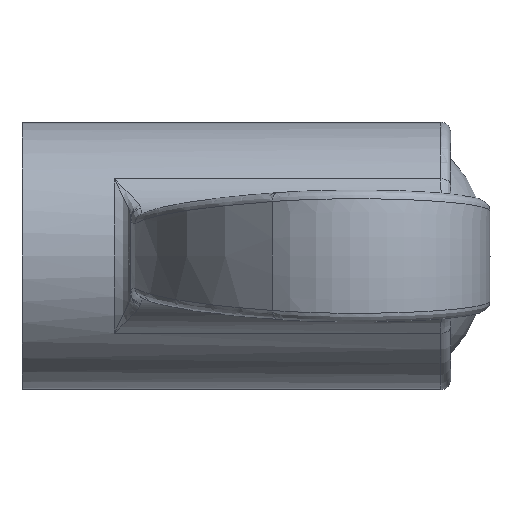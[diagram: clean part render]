
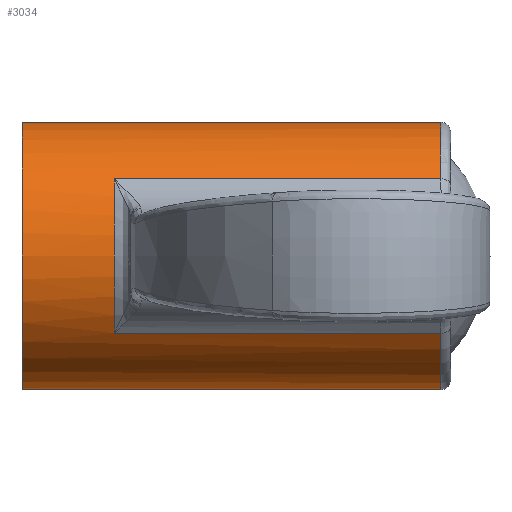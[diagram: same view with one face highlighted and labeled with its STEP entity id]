
A CAD part, front view. The second image highlights one B-rep face of the part: STEP entity #3034.
In plain terms, the highlighted cylindrical face has radius 8 mm (diameter 16 mm), a partial arc.
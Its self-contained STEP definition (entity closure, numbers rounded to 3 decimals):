
#85 = CARTESIAN_POINT ( 'NONE',  ( 25.049, -6.534, 4.615 ) ) ;
#163 = DIRECTION ( 'NONE',  ( 0., 0., -1. ) ) ;
#175 = ORIENTED_EDGE ( 'NONE', *, *, #1844, .T. ) ;
#215 = ORIENTED_EDGE ( 'NONE', *, *, #2663, .T. ) ;
#222 = ORIENTED_EDGE ( 'NONE', *, *, #1300, .F. ) ;
#272 = DIRECTION ( 'NONE',  ( -1., 0., 0. ) ) ;
#353 = DIRECTION ( 'NONE',  ( -1., 0., 0. ) ) ;
#403 = AXIS2_PLACEMENT_3D ( 'NONE', #969, #2035, #646 ) ;
#420 = AXIS2_PLACEMENT_3D ( 'NONE', #1093, #272, #1660 ) ;
#646 = DIRECTION ( 'NONE',  ( 0., 0., 1. ) ) ;
#760 = VERTEX_POINT ( 'NONE', #2981 ) ;
#820 = DIRECTION ( 'NONE',  ( -1., 0., 0. ) ) ;
#824 = VECTOR ( 'NONE', #820, 1000. ) ;
#968 = VERTEX_POINT ( 'NONE', #2036 ) ;
#969 = CARTESIAN_POINT ( 'NONE',  ( 0., 0., 0. ) ) ;
#1044 = CARTESIAN_POINT ( 'NONE',  ( 5.521, 0., 0. ) ) ;
#1047 = ORIENTED_EDGE ( 'NONE', *, *, #2371, .T. ) ;
#1054 = LINE ( 'NONE', #1329, #824 ) ;
#1059 = CARTESIAN_POINT ( 'NONE',  ( 28., -6.534, -4.615 ) ) ;
#1076 = CARTESIAN_POINT ( 'NONE',  ( 5.521, -6.534, -4.615 ) ) ;
#1093 = CARTESIAN_POINT ( 'NONE',  ( 25.049, 0., 0. ) ) ;
#1138 = EDGE_CURVE ( 'NONE', #3061, #2309, #2875, .T. ) ;
#1276 = DIRECTION ( 'NONE',  ( -1., 0., 0. ) ) ;
#1300 = EDGE_CURVE ( 'NONE', #2309, #3240, #2206, .T. ) ;
#1329 = CARTESIAN_POINT ( 'NONE',  ( 28., -6.534, 4.615 ) ) ;
#1459 = VECTOR ( 'NONE', #353, 1000. ) ;
#1460 = VECTOR ( 'NONE', #2314, 1000. ) ;
#1475 = CARTESIAN_POINT ( 'NONE',  ( 0., 0., -8. ) ) ;
#1490 = DIRECTION ( 'NONE',  ( -1., 0., 0. ) ) ;
#1516 = CARTESIAN_POINT ( 'NONE',  ( 0., 0., -8. ) ) ;
#1639 = VERTEX_POINT ( 'NONE', #1942 ) ;
#1660 = DIRECTION ( 'NONE',  ( 0., 0., -1. ) ) ;
#1844 = EDGE_CURVE ( 'NONE', #2594, #760, #2081, .T. ) ;
#1850 = DIRECTION ( 'NONE',  ( -1., 0., 0. ) ) ;
#1907 = AXIS2_PLACEMENT_3D ( 'NONE', #3172, #1276, #163 ) ;
#1942 = CARTESIAN_POINT ( 'NONE',  ( 25.049, -6.534, -4.615 ) ) ;
#1963 = VECTOR ( 'NONE', #3033, 1000. ) ;
#1996 = FACE_OUTER_BOUND ( 'NONE', #2183, .T. ) ;
#2001 = CARTESIAN_POINT ( 'NONE',  ( 0., 0., 8. ) ) ;
#2035 = DIRECTION ( 'NONE',  ( -1., 0., 0. ) ) ;
#2036 = CARTESIAN_POINT ( 'NONE',  ( 25.049, 0., 8. ) ) ;
#2075 = DIRECTION ( 'NONE',  ( 0., 0., 1. ) ) ;
#2081 = CIRCLE ( 'NONE', #2718, 8. ) ;
#2156 = LINE ( 'NONE', #1059, #1963 ) ;
#2159 = CARTESIAN_POINT ( 'NONE',  ( 0., 0., 8. ) ) ;
#2183 = EDGE_LOOP ( 'NONE', ( #2255, #1047, #2727, #175, #2808, #2900, #215, #222 ) ) ;
#2206 = CIRCLE ( 'NONE', #2319, 8. ) ;
#2241 = EDGE_CURVE ( 'NONE', #1639, #2594, #2156, .T. ) ;
#2255 = ORIENTED_EDGE ( 'NONE', *, *, #1138, .F. ) ;
#2309 = VERTEX_POINT ( 'NONE', #1475 ) ;
#2314 = DIRECTION ( 'NONE',  ( -1., 0., 0. ) ) ;
#2319 = AXIS2_PLACEMENT_3D ( 'NONE', #2349, #1490, #2075 ) ;
#2330 = CYLINDRICAL_SURFACE ( 'NONE', #403, 8. ) ;
#2349 = CARTESIAN_POINT ( 'NONE',  ( 0., 0., 0. ) ) ;
#2371 = EDGE_CURVE ( 'NONE', #3061, #1639, #3489, .T. ) ;
#2394 = CARTESIAN_POINT ( 'NONE',  ( 25.049, 0., -8. ) ) ;
#2509 = EDGE_CURVE ( 'NONE', #2964, #760, #1054, .T. ) ;
#2546 = CIRCLE ( 'NONE', #420, 8. ) ;
#2571 = EDGE_CURVE ( 'NONE', #2964, #968, #2546, .T. ) ;
#2594 = VERTEX_POINT ( 'NONE', #1076 ) ;
#2663 = EDGE_CURVE ( 'NONE', #968, #3240, #3411, .T. ) ;
#2718 = AXIS2_PLACEMENT_3D ( 'NONE', #1044, #1850, #3551 ) ;
#2727 = ORIENTED_EDGE ( 'NONE', *, *, #2241, .T. ) ;
#2808 = ORIENTED_EDGE ( 'NONE', *, *, #2509, .F. ) ;
#2875 = LINE ( 'NONE', #1516, #1459 ) ;
#2900 = ORIENTED_EDGE ( 'NONE', *, *, #2571, .T. ) ;
#2964 = VERTEX_POINT ( 'NONE', #85 ) ;
#2981 = CARTESIAN_POINT ( 'NONE',  ( 5.521, -6.534, 4.615 ) ) ;
#3033 = DIRECTION ( 'NONE',  ( -1., 0., 0. ) ) ;
#3034 = ADVANCED_FACE ( 'NONE', ( #1996 ), #2330, .T. ) ;
#3061 = VERTEX_POINT ( 'NONE', #2394 ) ;
#3172 = CARTESIAN_POINT ( 'NONE',  ( 25.049, 0., 0. ) ) ;
#3240 = VERTEX_POINT ( 'NONE', #2159 ) ;
#3411 = LINE ( 'NONE', #2001, #1460 ) ;
#3489 = CIRCLE ( 'NONE', #1907, 8. ) ;
#3551 = DIRECTION ( 'NONE',  ( 0., 0., 1. ) ) ;
